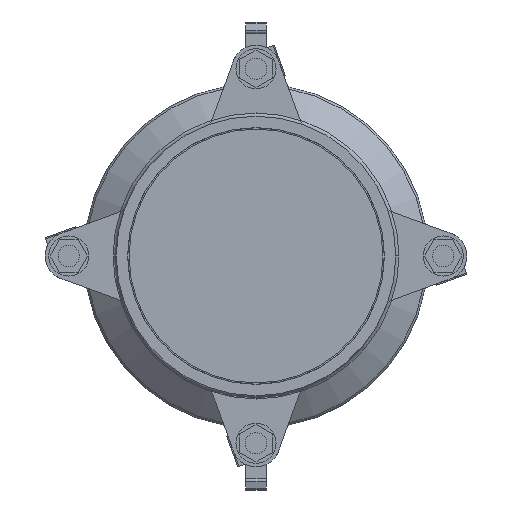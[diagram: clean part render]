
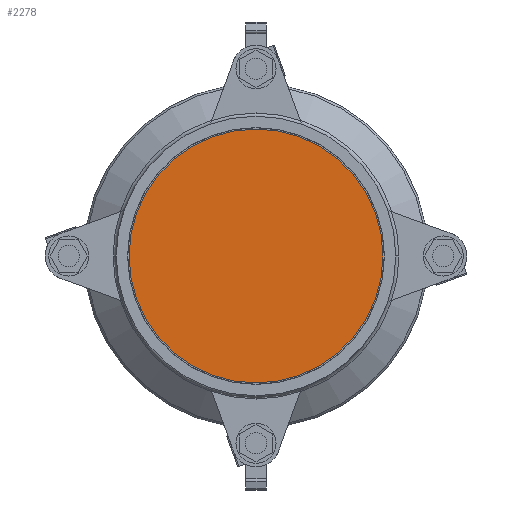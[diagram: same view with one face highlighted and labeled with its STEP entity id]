
A CAD part, left-side view. The second image highlights one B-rep face of the part: STEP entity #2278.
In plain terms, the highlighted planar face has unit normal (-1, 0, 0).
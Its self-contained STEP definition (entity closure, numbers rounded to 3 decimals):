
#2278=ADVANCED_FACE('',(#4260),#4261,.T.);
#4260=FACE_OUTER_BOUND('',#6507,.T.);
#4261=PLANE('',#6508);
#6507=EDGE_LOOP('',(#10590,#10591));
#6508=AXIS2_PLACEMENT_3D('',#10592,#10593,#10594);
#10590=ORIENTED_EDGE('',*,*,#13738,.T.);
#10591=ORIENTED_EDGE('',*,*,#13739,.T.);
#10592=CARTESIAN_POINT('',(21.5,0.0,0.0));
#10593=DIRECTION('',(-1.0,0.0,0.));
#10594=DIRECTION('',(0.,0.0,1.0));
#13738=EDGE_CURVE('',#16546,#16547,#16548,.T.);
#13739=EDGE_CURVE('',#16547,#16546,#16549,.T.);
#16546=VERTEX_POINT('',#20209);
#16547=VERTEX_POINT('',#20210);
#16548=CIRCLE('',#20211,105.0);
#16549=CIRCLE('',#20212,105.0);
#20209=CARTESIAN_POINT('',(21.5,0.0,-105.0));
#20210=CARTESIAN_POINT('',(21.5,0.,105.0));
#20211=AXIS2_PLACEMENT_3D('',#22521,#22522,#22523);
#20212=AXIS2_PLACEMENT_3D('',#22524,#22525,#22526);
#22521=CARTESIAN_POINT('',(21.5,0.0,0.0));
#22522=DIRECTION('',(-1.0,0.0,0.));
#22523=DIRECTION('',(0.,0.0,-1.0));
#22524=CARTESIAN_POINT('',(21.5,0.0,0.0));
#22525=DIRECTION('',(-1.0,0.0,0.));
#22526=DIRECTION('',(0.,0.0,-1.0));
